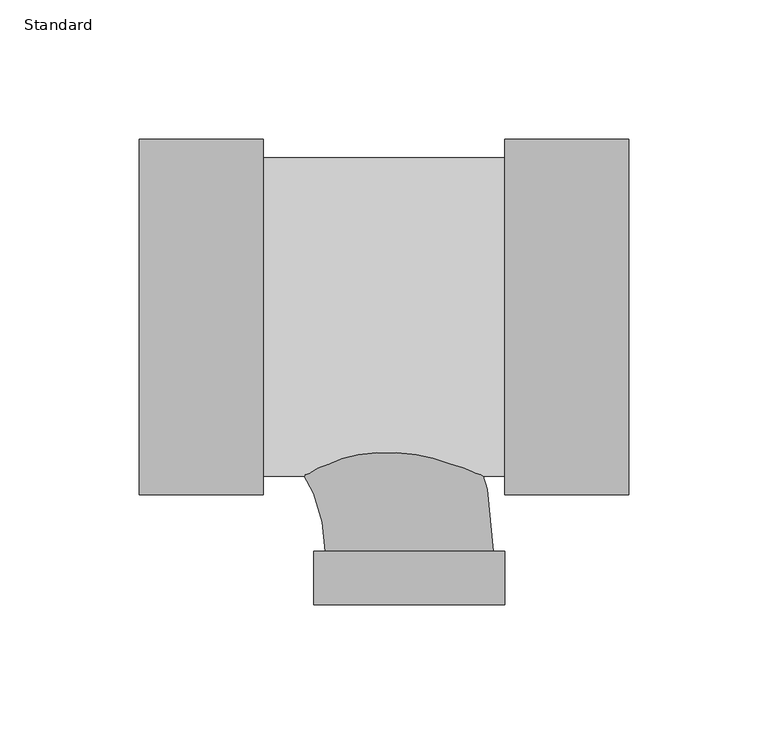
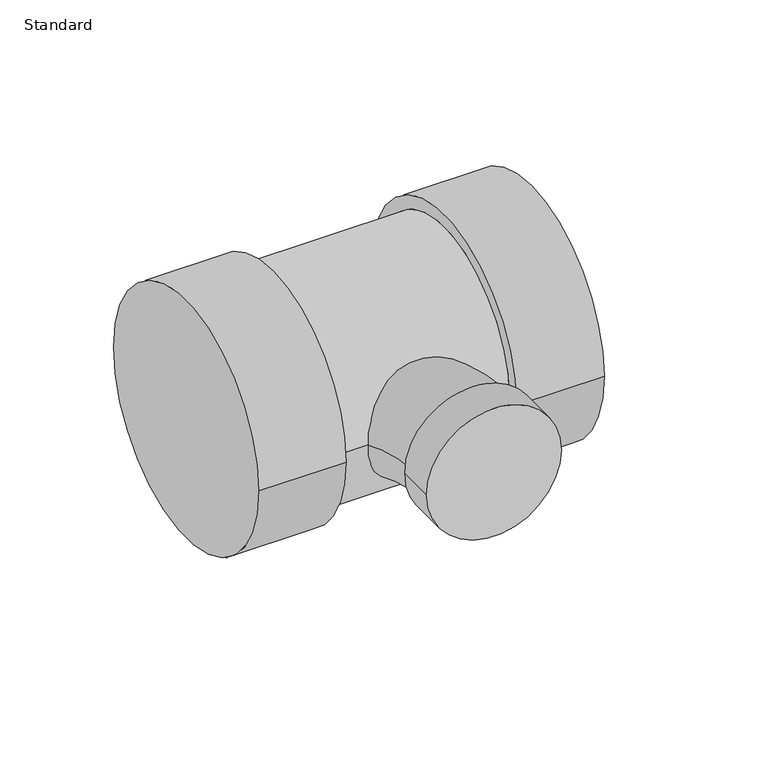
"""IFC4 building model written with IfcOpenShell, lengths in millimetres: pipe fitting geometry, EG-RCAN Té sanitaire de réduction - PVC - Nom. 40 - DWV : Standard."""

from ifc_helpers import new_model, si_unit, point, frame, origin, place, context, project, spatial, circle_curve, ellipse_curve, trimmed, source, transform, mapped, element, save
from ifc_brep_helpers import plane_surface, cylinder_surface, revolved_surface, advanced_brep


def standard_00fc3e73(model_context):
    return source(origin(), model_context, "Body", "AdvancedBrep", [
        advanced_brep(
        [(34.3185672, -63.754, 0.0), (34.3185672, 63.754, 0.0), (34.3185672, -57.15, 0.0), (34.3185672, 57.15, 0.0), (78.7685672, -63.754, 0.0), (78.7685672, 63.754, 0.0), (-52.4002, 57.15, 0.0), (-52.4002, -57.15, 0.0), (-96.8502, -63.754, 0.0), (-96.8502, 63.754, 0.0), (-52.4002, -63.754, 0.0), (-52.4002, 63.754, 0.0)],
        [
            (0, 1, circle_curve(frame((34.3185672, 0.0, 0.0), z_axis=(-1.0, 0.0, 0.0), x_axis=(0.0, 1.0, 0.0)), 63.754)),
            (1, 0, circle_curve(frame((34.3185672, 0.0, 0.0), z_axis=(-1.0, 0.0, 0.0), x_axis=(0.0, 1.0, 0.0)), 63.754)),
            (2, 3, circle_curve(frame((34.3185672, 0.0, 0.0), z_axis=(1.0, 0.0, 0.0), x_axis=(0.0, 0.0, -1.0)), 57.15)),
            (3, 2, circle_curve(frame((34.3185672, 0.0, 0.0), z_axis=(1.0, 0.0, 0.0), x_axis=(0.0, 0.0, 1.0)), 57.15)),
            (4, 5, circle_curve(frame((78.7685672, 0.0, 0.0), z_axis=(1.0, 0.0, 0.0), x_axis=(0.0, 1.0, 0.0)), 63.754)),
            (5, 4, circle_curve(frame((78.7685672, 0.0, 0.0), z_axis=(1.0, 0.0, 0.0), x_axis=(0.0, 1.0, 0.0)), 63.754)),
            (0, 4),
            (5, 1),
            (6, 3),
            (2, 7),
            (7, 6, circle_curve(frame((-52.4002, 0.0, 0.0), z_axis=(1.0, 0.0, 0.0), x_axis=(0.0, 0.0, -1.0)), 57.15)),
            (6, 7, circle_curve(frame((-52.4002, 0.0, 0.0), z_axis=(1.0, 0.0, 0.0), x_axis=(0.0, 0.0, 1.0)), 57.15)),
            (8, 9, circle_curve(frame((-96.8502, 0.0, 0.0), z_axis=(-1.0, 0.0, 0.0), x_axis=(0.0, 1.0, 0.0)), 63.754)),
            (9, 8, circle_curve(frame((-96.8502, 0.0, 0.0), z_axis=(-1.0, 0.0, 0.0), x_axis=(0.0, 1.0, 0.0)), 63.754)),
            (10, 11, circle_curve(frame((-52.4002, 0.0, 0.0), z_axis=(1.0, 0.0, 0.0), x_axis=(0.0, 1.0, 0.0)), 63.754)),
            (11, 10, circle_curve(frame((-52.4002, 0.0, 0.0), z_axis=(1.0, 0.0, 0.0), x_axis=(0.0, 1.0, 0.0)), 63.754)),
            (8, 10),
            (11, 9),
        ],
        [
            plane_surface(frame((34.3185672, 0.0, 0.0), z_axis=(-1.0, 0.0, 0.0), x_axis=(0.0, 0.0, 1.0))),
            plane_surface(frame((78.7685672, 0.0, 0.0), z_axis=(1.0, 0.0, 0.0), x_axis=(0.0, 0.0, 1.0))),
            cylinder_surface(frame((34.3185672, 0.0, 0.0), z_axis=(-1.0, 0.0, 0.0), x_axis=(0.0, 1.0, 0.0)), 63.754),
            cylinder_surface(frame((-52.4002, 0.0, 0.0), z_axis=(1.0, 0.0, 0.0), x_axis=(0.0, 0.0, -1.0)), 57.15),
            cylinder_surface(frame((-52.4002, 0.0, 0.0), z_axis=(1.0, 0.0, 0.0), x_axis=(0.0, 0.0, 1.0)), 57.15),
            plane_surface(frame((-96.8502, 0.0, 0.0), z_axis=(-1.0, 0.0, 0.0), x_axis=(0.0, 0.0, 1.0))),
            plane_surface(frame((-52.4002, 0.0, 0.0), z_axis=(1.0, 0.0, 0.0), x_axis=(0.0, 0.0, 1.0))),
            cylinder_surface(frame((-96.8502, 0.0, 0.0), z_axis=(-1.0, 0.0, 0.0), x_axis=(0.0, 1.0, 0.0)), 63.754),
        ],
        [
            (0, [[1, 2], [3, 4]]),
            (1, [[5, 6]]),
            (2, [[-1, 7, -6, 8]]),
            (2, [[-2, -8, -5, -7]]),
            (3, [[9, -3, 10, 11]]),
            (4, [[-9, 12, -10, -4]]),
            (5, [[13, 14]]),
            (6, [[15, 16], [-11, -12]]),
            (7, [[-13, 17, -16, 18]]),
            (7, [[-14, -18, -15, -17]]),
        ],
    ),
        advanced_brep(
        [(-34.3122327, -84.1514915, 0.0), (34.3185672, -84.1489084, 0.0), (30.1656672, -84.1490647, 0.0), (-30.1593327, -84.1513352, 0.0), (-34.3115157, -103.2014915, 0.0), (34.3192842, -103.1989084, 0.0), (-84.1502, -30.1625, 0.0), (-84.1502, 30.1625, 0.0)],
        [
            (0, 1, circle_curve(frame((0.0031673, -84.1501999, 0.0), z_axis=(-3.763821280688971e-05, 0.9999999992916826, 0.0), x_axis=(0.9999999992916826, 3.763821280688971e-05, 0.0)), 34.3154)),
            (1, 0, circle_curve(frame((0.0031673, -84.1501999, 0.0), z_axis=(-3.763821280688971e-05, 0.9999999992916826, 0.0), x_axis=(0.9999999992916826, 3.763821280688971e-05, 0.0)), 34.3154)),
            (2, 3, circle_curve(frame((0.0031673, -84.1501999, 0.0), z_axis=(3.763821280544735e-05, -0.9999999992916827, 0.0), x_axis=(0.9999999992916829, 3.7638212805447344e-05, 0.0)), 30.1625)),
            (3, 2, circle_curve(frame((0.0031673, -84.1501999, 0.0), z_axis=(3.763821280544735e-05, -0.9999999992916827, 0.0), x_axis=(0.9999999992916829, 3.7638212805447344e-05, 0.0)), 30.1625)),
            (4, 5, circle_curve(frame((0.0038843, -103.2001999, 0.0), z_axis=(3.763821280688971e-05, -0.9999999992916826, 0.0), x_axis=(0.9999999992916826, 3.763821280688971e-05, 0.0)), 34.3154)),
            (5, 4, circle_curve(frame((0.0038843, -103.2001999, 0.0), z_axis=(3.763821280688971e-05, -0.9999999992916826, 0.0), x_axis=(0.9999999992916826, 3.763821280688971e-05, 0.0)), 34.3154)),
            (0, 4),
            (5, 1),
            (6, 7, circle_curve(frame((-84.1502, 0.0, 0.0), z_axis=(-1.0000000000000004, 0.0, 0.0), x_axis=(0.0, 1.0000000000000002, 0.0)), 30.1625)),
            (7, 6, circle_curve(frame((-84.1502, 0.0, 0.0), z_axis=(-1.0000000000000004, 0.0, 0.0), x_axis=(0.0, 1.0000000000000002, 0.0)), 30.1625)),
            (6, 3, circle_curve(frame((-84.1502, -84.1533673, 0.0), z_axis=(0.0, 0.0, -1.0), x_axis=(0.0, 1.0000000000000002, 0.0)), 53.9908673)),
            (2, 7, circle_curve(frame((-84.1502, -84.1533673, 0.0), z_axis=(0.0, 0.0, 1.0), x_axis=(0.0, 1.0000000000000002, 0.0)), 114.3158673)),
        ],
        [
            plane_surface(frame((0.0031673, -84.1501999, 0.0), z_axis=(-3.763821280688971e-05, 0.9999999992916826, 0.0), x_axis=(0.0, 0.0, 1.0))),
            plane_surface(frame((0.0038843, -103.2001999, 0.0), z_axis=(3.763821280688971e-05, -0.9999999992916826, 0.0), x_axis=(0.0, 0.0, 1.0))),
            cylinder_surface(frame((0.0031673, -84.1501999, 0.0), z_axis=(-3.763821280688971e-05, 0.9999999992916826, 0.0), x_axis=(0.9999999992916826, 3.763821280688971e-05, 0.0)), 34.3154),
            plane_surface(frame((-84.1502, 0.0, 0.0), z_axis=(-1.0, 0.0, 0.0), x_axis=(0.0, 0.0, 1.0))),
            revolved_surface(trimmed(ellipse_curve(frame((-84.1502, 0.0, 0.0), z_axis=(-1.0000000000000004, 0.0, 0.0), x_axis=(0.0, 1.0000000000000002, 0.0)), 30.1625, 30.1625), [point((-84.1502, -30.1625, 0.0))], [point((-84.1502, 30.1625, 0.0))], True, "CARTESIAN"), (-84.1502, -84.1533673, 0.0), (0.0, 0.0, -1.0000000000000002)),
            revolved_surface(trimmed(ellipse_curve(frame((-84.1502, 0.0, 0.0), z_axis=(-1.0000000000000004, 0.0, 0.0), x_axis=(0.0, 1.0000000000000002, 0.0)), 30.1625, 30.1625), [point((-84.1502, 30.1625, 0.0))], [point((-84.1502, -30.1625, 0.0))], True, "CARTESIAN"), (-84.1502, -84.1533673, 0.0), (0.0, 0.0, -1.0000000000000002)),
        ],
        [
            (0, [[1, 2], [3, 4]]),
            (1, [[5, 6]]),
            (2, [[-1, 7, -6, 8]]),
            (2, [[-2, -8, -5, -7]]),
            (3, [[9, 10]]),
            (4, [[-9, 11, -3, 12]]),
            (5, [[-10, -12, -4, -11]]),
        ],
    ),
    ])


if __name__ == "__main__":
    model = new_model("IFC4")
    model_context = context("Model", 3, world=origin())
    ifc_project = project(units=[si_unit("LENGTHUNIT", "METRE", prefix="MILLI")], contexts=[model_context])
    site = spatial("IfcSite", under=ifc_project)
    building = spatial("IfcBuilding", under=site)
    placement = place(None, origin())
    standard_shape = standard_00fc3e73(model_context)
    element("IfcPipeFitting", 1, ObjectType="EG-RCAN Té sanitaire de réduction - PVC - Nom. 40 - DWV : Standard", at=placement, inside=building, context=model_context, shape_type="MappedRepresentation", body=[
        mapped(standard_shape, transform((0.0, 0.0, 0.0), x_axis=(1.0, 0.0, 0.0), y_axis=(0.0, 1.0, 0.0), z_axis=(0.0, 0.0, 1.0))),
    ])
    save(model, "model.ifc")
